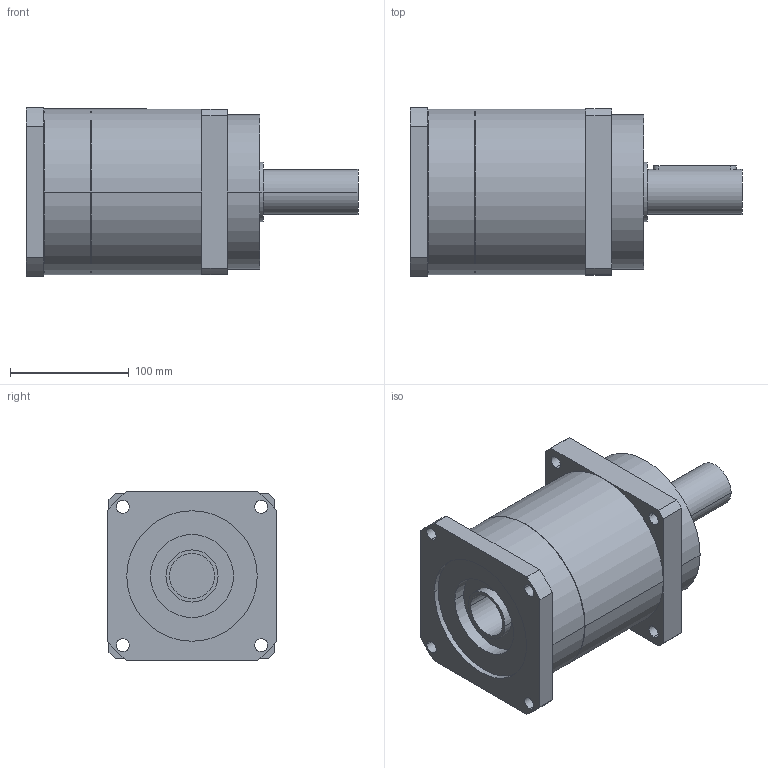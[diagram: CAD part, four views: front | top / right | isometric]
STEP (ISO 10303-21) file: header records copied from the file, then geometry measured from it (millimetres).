
FILE_DESCRIPTION(('CoCreate Modeling STEP Export'),'2;1');
FILE_NAME('GPR150_ig-3-4-5-7_38_B5_38_P14.stp','2014-08-19T16:43:36',(''),(''),'CoCreate Modeling STEP processor for AP214 (Solid Model)','CoCreate Modeling 16.00C 25-Feb-2009 (C) Parametric Technology GmbH','');
FILE_SCHEMA(('AUTOMOTIVE_DESIGN { 1 0 10303 214 1 1 1 1 }'));
Length unit declared in the file: millimetre
Products named in the file (2): GPR150_ig-3-4-5-7_38_B5_38_P14
Assembly tree (1 placements, depth 2):
  GPR150_ig-3-4-5-7_38_B5_38_P14
    GPR150_ig-3-4-5-7_38_B5_38_P14
Bounding box: 280 x 142 x 142 mm (x, y, z)
Volume: 3056445.7 mm3; surface area: 166305.9 mm2
Topology: 1 solids, 1 shells, 78 faces, 214 edges, 146 vertices
Faces by surface type: cylinder 46, plane 26, cone 6
Entity records: 2260 total; most frequent: ORIENTED_EDGE 424, CARTESIAN_POINT 421, DIRECTION 320, EDGE_CURVE 212, VERTEX_POINT 146, AXIS2_PLACEMENT_3D 117, EDGE_LOOP 104, VECTOR 86
